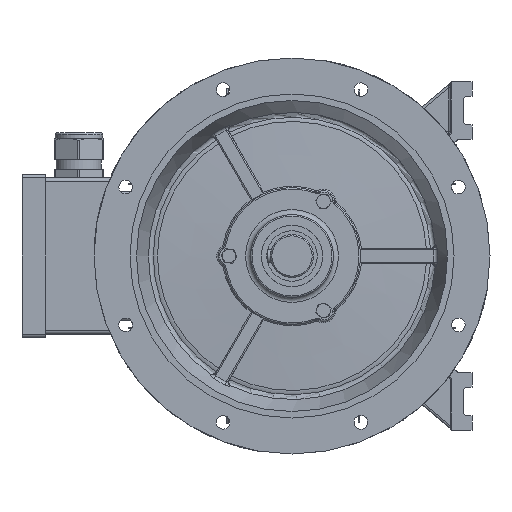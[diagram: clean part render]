
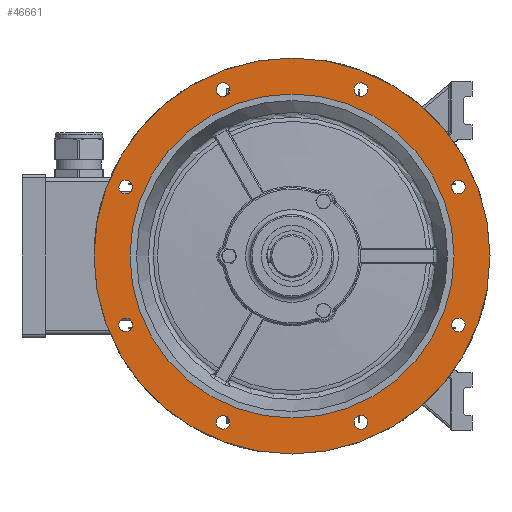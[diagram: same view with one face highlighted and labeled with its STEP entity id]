
A CAD part, left-side view. The second image highlights one B-rep face of the part: STEP entity #46661.
In plain terms, the highlighted planar face has unit normal (-1, 0, 0).
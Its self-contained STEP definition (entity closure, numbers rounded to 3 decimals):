
#11652=PLANE('',#50034);
#12117=FACE_BOUND('',#17466,.T.);
#12118=FACE_BOUND('',#17467,.T.);
#12119=FACE_BOUND('',#17468,.T.);
#12120=FACE_BOUND('',#17469,.T.);
#12121=FACE_BOUND('',#17470,.T.);
#12122=FACE_BOUND('',#17471,.T.);
#12123=FACE_BOUND('',#17472,.T.);
#12124=FACE_BOUND('',#17473,.T.);
#12125=FACE_BOUND('',#17474,.T.);
#14514=FACE_OUTER_BOUND('',#17465,.T.);
#17465=EDGE_LOOP('',(#40123));
#17466=EDGE_LOOP('',(#40124));
#17467=EDGE_LOOP('',(#40125));
#17468=EDGE_LOOP('',(#40126));
#17469=EDGE_LOOP('',(#40127));
#17470=EDGE_LOOP('',(#40128));
#17471=EDGE_LOOP('',(#40129));
#17472=EDGE_LOOP('',(#40130));
#17473=EDGE_LOOP('',(#40131));
#17474=EDGE_LOOP('',(#40132));
#18494=CIRCLE('',#50010,9.5);
#18495=CIRCLE('',#50012,9.5);
#18496=CIRCLE('',#50014,9.5);
#18497=CIRCLE('',#50016,9.5);
#18498=CIRCLE('',#50018,9.5);
#18499=CIRCLE('',#50020,9.5);
#18500=CIRCLE('',#50022,9.5);
#18501=CIRCLE('',#50024,9.5);
#18508=CIRCLE('',#50035,275.);
#18509=CIRCLE('',#50036,225.);
#22396=VERTEX_POINT('',#82335);
#22397=VERTEX_POINT('',#82338);
#22398=VERTEX_POINT('',#82341);
#22399=VERTEX_POINT('',#82344);
#22400=VERTEX_POINT('',#82347);
#22401=VERTEX_POINT('',#82350);
#22402=VERTEX_POINT('',#82353);
#22403=VERTEX_POINT('',#82356);
#22416=VERTEX_POINT('',#82386);
#22417=VERTEX_POINT('',#82388);
#28398=EDGE_CURVE('',#22396,#22396,#18494,.T.);
#28399=EDGE_CURVE('',#22397,#22397,#18495,.T.);
#28400=EDGE_CURVE('',#22398,#22398,#18496,.T.);
#28401=EDGE_CURVE('',#22399,#22399,#18497,.T.);
#28402=EDGE_CURVE('',#22400,#22400,#18498,.T.);
#28403=EDGE_CURVE('',#22401,#22401,#18499,.T.);
#28404=EDGE_CURVE('',#22402,#22402,#18500,.T.);
#28405=EDGE_CURVE('',#22403,#22403,#18501,.T.);
#28418=EDGE_CURVE('',#22416,#22416,#18508,.T.);
#28419=EDGE_CURVE('',#22417,#22417,#18509,.T.);
#40123=ORIENTED_EDGE('',*,*,#28418,.F.);
#40124=ORIENTED_EDGE('',*,*,#28398,.T.);
#40125=ORIENTED_EDGE('',*,*,#28399,.T.);
#40126=ORIENTED_EDGE('',*,*,#28400,.T.);
#40127=ORIENTED_EDGE('',*,*,#28401,.T.);
#40128=ORIENTED_EDGE('',*,*,#28402,.T.);
#40129=ORIENTED_EDGE('',*,*,#28403,.T.);
#40130=ORIENTED_EDGE('',*,*,#28404,.T.);
#40131=ORIENTED_EDGE('',*,*,#28405,.T.);
#40132=ORIENTED_EDGE('',*,*,#28419,.T.);
#46661=ADVANCED_FACE('',(#14514,#12117,#12118,#12119,#12120,#12121,#12122,
#12123,#12124,#12125),#11652,.T.);
#50010=AXIS2_PLACEMENT_3D('',#82336,#60637,#60638);
#50012=AXIS2_PLACEMENT_3D('',#82339,#60641,#60642);
#50014=AXIS2_PLACEMENT_3D('',#82342,#60645,#60646);
#50016=AXIS2_PLACEMENT_3D('',#82345,#60649,#60650);
#50018=AXIS2_PLACEMENT_3D('',#82348,#60653,#60654);
#50020=AXIS2_PLACEMENT_3D('',#82351,#60657,#60658);
#50022=AXIS2_PLACEMENT_3D('',#82354,#60661,#60662);
#50024=AXIS2_PLACEMENT_3D('',#82357,#60665,#60666);
#50034=AXIS2_PLACEMENT_3D('',#82385,#60691,#60692);
#50035=AXIS2_PLACEMENT_3D('',#82387,#60693,#60694);
#50036=AXIS2_PLACEMENT_3D('',#82389,#60695,#60696);
#60637=DIRECTION('center_axis',(1.,0.,0.));
#60638=DIRECTION('ref_axis',(0.,0.707,0.707));
#60641=DIRECTION('center_axis',(1.,0.,0.));
#60642=DIRECTION('ref_axis',(0.,1.,0.));
#60645=DIRECTION('center_axis',(1.,0.,0.));
#60646=DIRECTION('ref_axis',(0.,0.707,-0.707));
#60649=DIRECTION('center_axis',(1.,0.,0.));
#60650=DIRECTION('ref_axis',(0.,0.,-1.));
#60653=DIRECTION('center_axis',(1.,0.,0.));
#60654=DIRECTION('ref_axis',(0.,-0.707,-0.707));
#60657=DIRECTION('center_axis',(1.,0.,0.));
#60658=DIRECTION('ref_axis',(0.,-1.,0.));
#60661=DIRECTION('center_axis',(1.,0.,0.));
#60662=DIRECTION('ref_axis',(0.,-0.707,0.707));
#60665=DIRECTION('center_axis',(1.,0.,0.));
#60666=DIRECTION('ref_axis',(0.,0.,1.));
#60691=DIRECTION('center_axis',(-1.,0.,0.));
#60692=DIRECTION('ref_axis',(0.,0.,1.));
#60693=DIRECTION('center_axis',(1.,0.,0.));
#60694=DIRECTION('ref_axis',(0.,1.,0.));
#60695=DIRECTION('center_axis',(1.,0.,0.));
#60696=DIRECTION('ref_axis',(0.,1.,0.));
#82335=CARTESIAN_POINT('',(140.,88.953,-237.687));
#82336=CARTESIAN_POINT('Origin',(140.,95.671,-230.97));
#82338=CARTESIAN_POINT('',(140.,-105.171,-230.97));
#82339=CARTESIAN_POINT('Origin',(140.,-95.671,-230.97));
#82341=CARTESIAN_POINT('',(140.,-237.687,-88.953));
#82342=CARTESIAN_POINT('Origin',(140.,-230.97,-95.671));
#82344=CARTESIAN_POINT('',(140.,-230.97,105.171));
#82345=CARTESIAN_POINT('Origin',(140.,-230.97,95.671));
#82347=CARTESIAN_POINT('',(140.,-88.953,237.687));
#82348=CARTESIAN_POINT('Origin',(140.,-95.671,230.97));
#82350=CARTESIAN_POINT('',(140.,105.171,230.97));
#82351=CARTESIAN_POINT('Origin',(140.,95.671,230.97));
#82353=CARTESIAN_POINT('',(140.,237.687,88.953));
#82354=CARTESIAN_POINT('Origin',(140.,230.97,95.671));
#82356=CARTESIAN_POINT('',(140.,230.97,-105.171));
#82357=CARTESIAN_POINT('Origin',(140.,230.97,-95.671));
#82385=CARTESIAN_POINT('Origin',(140.,245.5,0.));
#82386=CARTESIAN_POINT('',(140.,275.,0.));
#82387=CARTESIAN_POINT('Origin',(140.,0.,0.));
#82388=CARTESIAN_POINT('',(140.,225.,0.));
#82389=CARTESIAN_POINT('Origin',(140.,0.,0.));
